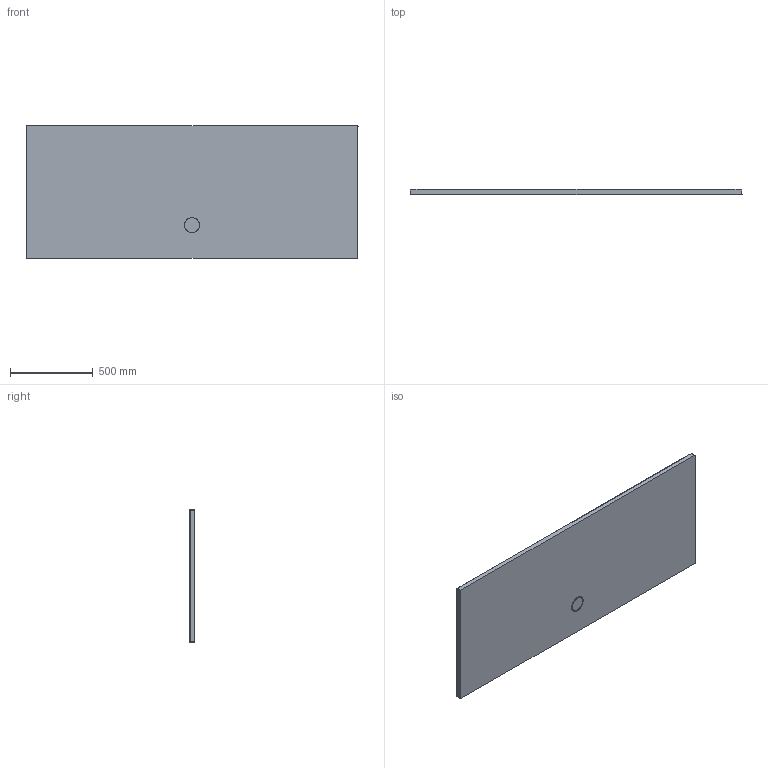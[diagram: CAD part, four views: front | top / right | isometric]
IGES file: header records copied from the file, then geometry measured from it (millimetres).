
Start section: SolidWorks IGES file using analytic representation for surfaces
Global section: file name: D:\Users\M.Szymanski\Desktop\B-M_Space\B_M_80x200x1,5.IGS; native system: SolidWorks 2011; preprocessor: SolidWorks 2011; author: M.Szymanski; date: 180216.080331; units: millimetre
Bounding box: 2000 x 30 x 800 mm (x, y, z)
Surface area: 3380553.1 mm2 (no closed solid volume)
Topology: 0 solids, 0 shells, 61 faces, 739 edges, 736 vertices
Faces by surface type: bspline 39, revolution 22
